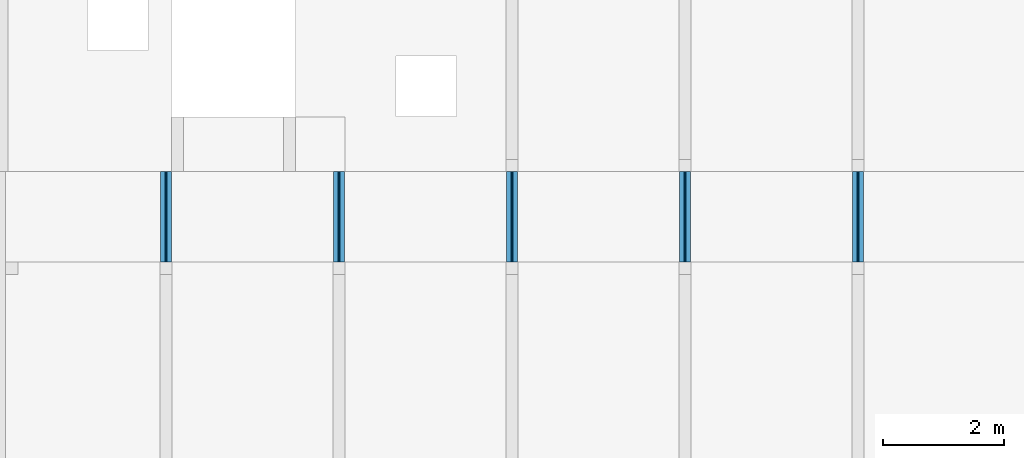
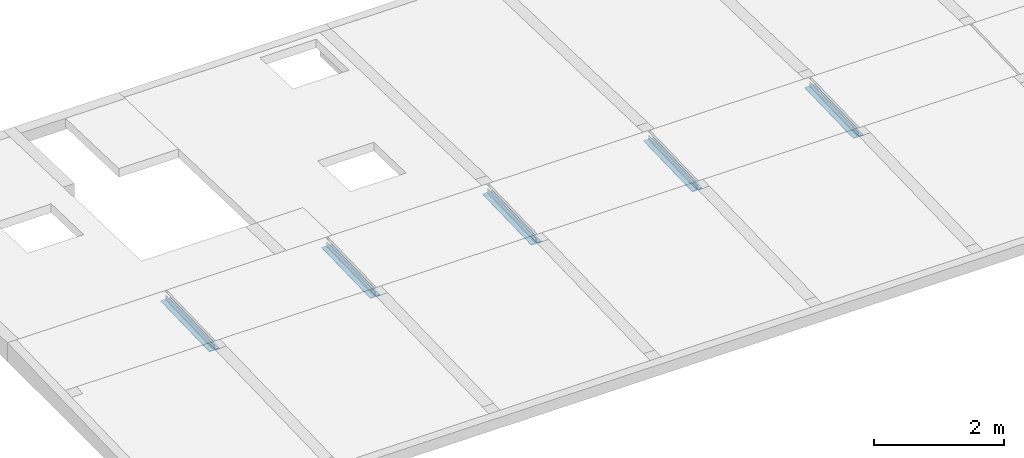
# One storey, part 4 of 5: 5 beams.
"""IFC4 building model written with IfcOpenShell, lengths in metres."""

from ifc_helpers import new_model, entity, si_unit, converted_unit, derived_unit, frame, origin, place, context, subcontext, project, spatial, faceted_brep, material, element, save


model = new_model("IFC4")

# Units and contexts
model_context = context("Model", 3, precision=1e-05, world=origin())
plan_context = context("Plan", 2, precision=1e-05, world=origin())
body_context = subcontext(model_context, "Body", "Model", "MODEL_VIEW")
ifc_project = project(units=[si_unit("LENGTHUNIT", "METRE"), si_unit("AREAUNIT", "SQUARE_METRE"), si_unit("VOLUMEUNIT", "CUBIC_METRE"), si_unit("MASSUNIT", "GRAM", prefix="KILO"), converted_unit("PLANEANGLEUNIT", "DEGREE", entity("IfcPlaneAngleMeasure", 0.0174532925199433), si_unit("PLANEANGLEUNIT", "RADIAN"), dimensions=[0, 0, 0, 0, 0, 0, 0]), derived_unit("THERMALTRANSMITTANCEUNIT", [(si_unit("POWERUNIT", "WATT"), 1), (si_unit("THERMODYNAMICTEMPERATUREUNIT", "KELVIN"), -1), (si_unit("LENGTHUNIT", "METRE"), -2)]), derived_unit("VOLUMETRICFLOWRATEUNIT", [(si_unit("LENGTHUNIT", "METRE"), 3), (converted_unit("TIMEUNIT", "hour", entity("IfcTimeMeasure", 3600.0), si_unit("TIMEUNIT", "SECOND"), dimensions=[0, 0, 1, 0, 0, 0, 0]), -1), (si_unit("LENGTHUNIT", "METRE"), -1)])], contexts=[model_context, plan_context])

# Site, building, storey
site_placement = place(None, origin())
site = spatial("IfcSite", under=ifc_project, at=site_placement, Name="Site", CompositionType="ELEMENT")
building_placement = place(site_placement, origin())
building = spatial("IfcBuilding", under=site, at=building_placement, Name="Admin", CompositionType="ELEMENT")
storey_placement = place(building_placement, frame((0.0, 0.0, 9.64)))
storey = spatial("IfcBuildingStorey", under=building, at=storey_placement, Name="03-Toiture", CompositionType="ELEMENT", Elevation=9.64)

# Beams
ifc_material_1 = material(Name="S235")
beam_1_placement = place(storey_placement, frame((29.5798007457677, 15.699449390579, -0.0230528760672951)))
element("IfcBeam", 1, at=beam_1_placement, inside=storey, material=ifc_material_1, Name="PM 2.02", PredefinedType="NOTDEFINED", context=body_context, shape_type="Brep", body=[
    faceted_brep([(-3.63797880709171e-15, 0.0, 0.0), (0.179999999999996, 0.0, 0.0), (0.180000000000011, 1.49998796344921, 0.043480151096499), (1.09139364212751e-14, 1.49998796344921, 0.043480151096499), (0.0707499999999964, 1.81898940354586e-15, 0.0140058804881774), (-3.63797880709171e-15, 0.0, 0.0140058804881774), (1.09139364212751e-14, 1.49998796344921, 0.0574856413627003), (0.0707500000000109, 1.49998796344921, 0.0574856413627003), (0.0733547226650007, 1.81898940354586e-15, 0.0142338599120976), (0.0733547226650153, 1.49998796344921, 0.0577136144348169), (0.0758803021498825, 1.81898940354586e-15, 0.0149108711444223), (0.075880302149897, 1.49998796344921, 0.0583906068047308), (0.0782499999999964, 1.81898940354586e-15, 0.0160163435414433), (0.0782500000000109, 1.49998796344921, 0.0594960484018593), (0.0803918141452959, 1.81898940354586e-15, 0.0175166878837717), (0.0803918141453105, 1.49998796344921, 0.0609963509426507), (0.0822406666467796, 1.81898940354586e-15, 0.0193663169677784), (0.0822406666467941, 1.49998796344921, 0.0628459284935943), (0.083740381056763, 1.81898940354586e-15, 0.0215090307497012), (0.0837403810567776, 1.49998796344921, 0.064988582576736), (0.084845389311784, 1.81898940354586e-15, 0.0238797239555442), (0.0848453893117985, 1.49998796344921, 0.0673592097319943), (0.0855221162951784, 1.81898940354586e-15, 0.0264063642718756), (0.085522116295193, 1.49998796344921, 0.0698857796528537), (0.0857499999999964, 0.0, 0.029012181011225), (0.0857500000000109, 1.49998796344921, 0.0724915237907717), (0.0942499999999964, 0.0, 0.0900378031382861), (0.0857499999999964, 0.0, 0.0900378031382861), (0.0857500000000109, 1.49998796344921, 0.133515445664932), (0.0942500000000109, 1.49998796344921, 0.133515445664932), (0.0944778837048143, 0.0, 0.0264063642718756), (0.0942499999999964, 0.0, 0.029012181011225), (0.0942500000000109, 1.49998796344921, 0.0724915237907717), (0.0944778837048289, 1.49998796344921, 0.0698857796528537), (0.0951546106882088, 0.0, 0.0238797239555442), (0.0951546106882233, 1.49998796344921, 0.0673592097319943), (0.0962596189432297, 0.0, 0.0215090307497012), (0.0962596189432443, 1.49998796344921, 0.064988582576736), (0.0977593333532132, 0.0, 0.0193663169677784), (0.0977593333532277, 1.49998796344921, 0.0628459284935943), (0.0996081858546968, 0.0, 0.0175166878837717), (0.0996081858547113, 1.49998796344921, 0.0609963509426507), (0.101749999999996, 0.0, 0.0160163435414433), (0.101750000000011, 1.49998796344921, 0.0594960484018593), (0.10411969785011, 0.0, 0.0149108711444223), (0.104119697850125, 1.49998796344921, 0.0583906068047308), (0.106645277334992, 0.0, 0.0142338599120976), (0.106645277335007, 1.49998796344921, 0.0577136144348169), (0.109249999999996, 0.0, 0.0140058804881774), (0.109250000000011, 1.49998796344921, 0.0574856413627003), (0.179999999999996, 0.0, 0.0140058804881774), (0.180000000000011, 1.49998796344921, 0.0574856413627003), (0.180000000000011, 1.5, 0.0434745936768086), (1.09139364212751e-14, 1.5, 0.0434745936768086), (1.09139364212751e-14, 1.5, 0.0574808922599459), (0.0707500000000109, 1.5, 0.0574808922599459), (0.0733547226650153, 1.5, 0.0577088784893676), (0.075880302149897, 1.5, 0.0583859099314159), (0.0782500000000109, 1.5, 0.0594914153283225), (0.0803918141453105, 1.5, 0.0609918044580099), (0.0822406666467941, 1.5, 0.0628414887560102), (0.0837403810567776, 1.5, 0.0649842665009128), (0.0848453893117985, 1.5, 0.0673550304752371), (0.085522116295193, 1.5, 0.0698817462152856), (0.0857500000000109, 1.5, 0.0724876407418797), (0.0857500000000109, 1.5, 0.133515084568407), (0.0942500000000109, 1.5, 0.133515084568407), (0.0942500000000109, 1.5, 0.0724876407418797), (0.0944778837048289, 1.5, 0.0698817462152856), (0.0951546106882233, 1.5, 0.0673550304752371), (0.0962596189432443, 1.5, 0.0649842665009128), (0.0977593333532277, 1.5, 0.0628414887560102), (0.0996081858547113, 1.5, 0.0609918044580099), (0.101750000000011, 1.5, 0.0594914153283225), (0.104119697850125, 1.5, 0.0583859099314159), (0.106645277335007, 1.5, 0.0577088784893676), (0.109250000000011, 1.5, 0.0574808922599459), (0.180000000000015, 1.5, 0.0574808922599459)], [[[0, 1, 2, 3]], [[4, 5, 6, 7]], [[8, 4, 7, 9]], [[10, 8, 9, 11]], [[12, 10, 11, 13]], [[14, 12, 13, 15]], [[16, 14, 15, 17]], [[18, 16, 17, 19]], [[20, 18, 19, 21]], [[22, 20, 21, 23]], [[24, 22, 23, 25]], [[26, 27, 28, 29]], [[30, 31, 32, 33]], [[34, 30, 33, 35]], [[36, 34, 35, 37]], [[38, 36, 37, 39]], [[40, 38, 39, 41]], [[42, 40, 41, 43]], [[44, 42, 43, 45]], [[46, 44, 45, 47]], [[48, 46, 47, 49]], [[50, 48, 49, 51]], [[3, 2, 52, 53]], [[7, 6, 54, 55]], [[9, 7, 55, 56]], [[11, 9, 56, 57]], [[13, 11, 57, 58]], [[15, 13, 58, 59]], [[17, 15, 59, 60]], [[19, 17, 60, 61]], [[21, 19, 61, 62]], [[23, 21, 62, 63]], [[25, 23, 63, 64]], [[27, 24, 25, 64, 65, 28]], [[29, 28, 65, 66]], [[31, 26, 29, 66, 67, 32]], [[33, 32, 67, 68]], [[35, 33, 68, 69]], [[37, 35, 69, 70]], [[39, 37, 70, 71]], [[41, 39, 71, 72]], [[43, 41, 72, 73]], [[45, 43, 73, 74]], [[47, 45, 74, 75]], [[49, 47, 75, 76]], [[51, 49, 76, 77]], [[54, 53, 52, 77, 76, 75, 74, 73, 72, 71, 70, 69, 68, 67, 66, 65, 64, 63, 62, 61, 60, 59, 58, 57, 56, 55]], [[77, 52, 2, 1, 50, 51]], [[50, 1, 0, 5, 4, 8, 10, 12, 14, 16, 18, 20, 22, 24, 27, 26, 31, 30, 34, 36, 38, 40, 42, 44, 46, 48]], [[5, 0, 3, 53, 54, 6]]], orient=[[False], [False], [False], [False], [False], [False], [False], [False], [False], [False], [False], [False], [False], [False], [False], [False], [False], [False], [False], [False], [False], [False], [False], [False], [False], [False], [False], [False], [False], [False], [False], [False], [False], [False], [False], [False], [False], [False], [False], [False], [False], [False], [False], [False], [False], [False], [False], [False], [False], [False]]),
])
ifc_material_2 = material(Name="S235")
beam_2_placement = place(storey_placement, frame((35.2998007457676, 15.699449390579, -0.0229797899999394)))
element("IfcBeam", 2, at=beam_2_placement, inside=storey, material=ifc_material_2, Name="PM 2.04", PredefinedType="NOTDEFINED", context=body_context, shape_type="Brep", body=[
    faceted_brep([(0.0, 0.0, -1.81898940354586e-15), (0.18, 0.0, -1.81898940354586e-15), (0.180000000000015, 1.49998796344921, 0.0434801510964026), (1.45519152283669e-14, 1.49998796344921, 0.0434801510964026), (0.07075, 1.81898940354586e-15, 0.0139999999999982), (0.0, 0.0, 0.0139999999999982), (1.45519152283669e-14, 1.49998796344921, 0.0574801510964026), (0.0707500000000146, 1.49998796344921, 0.0574801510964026), (0.0733547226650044, 1.81898940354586e-15, 0.0142278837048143), (0.0733547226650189, 1.49998796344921, 0.0577080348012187), (0.0758803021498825, 1.81898940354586e-15, 0.0149046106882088), (0.075880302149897, 1.49998796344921, 0.0583847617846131), (0.07825, 1.81898940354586e-15, 0.0160096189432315), (0.0782500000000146, 1.49998796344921, 0.0594897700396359), (0.0803918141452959, 1.81898940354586e-15, 0.0175093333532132), (0.0803918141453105, 1.49998796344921, 0.0609894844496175), (0.0822406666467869, 1.81898940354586e-15, 0.0193581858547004), (0.0822406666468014, 1.49998796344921, 0.0628383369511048), (0.083740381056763, 1.81898940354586e-15, 0.0214999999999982), (0.0837403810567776, 1.49998796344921, 0.0649801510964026), (0.0848453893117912, 1.81898940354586e-15, 0.0238696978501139), (0.0848453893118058, 1.49998796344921, 0.0673498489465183), (0.0855221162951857, 1.81898940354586e-15, 0.0263952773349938), (0.0855221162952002, 1.49998796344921, 0.0698754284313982), (0.08575, 0.0, 0.0289999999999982), (0.0857500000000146, 1.49998796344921, 0.0724801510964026), (0.09425, 0.0, 0.0899999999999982), (0.08575, 0.0, 0.0899999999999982), (0.0857500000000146, 1.49998796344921, 0.133480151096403), (0.0942500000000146, 1.49998796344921, 0.133480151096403), (0.0944778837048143, 0.0, 0.0263952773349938), (0.09425, 0.0, 0.0289999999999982), (0.0942500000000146, 1.49998796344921, 0.0724801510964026), (0.0944778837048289, 1.49998796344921, 0.0698754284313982), (0.0951546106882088, 0.0, 0.0238696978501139), (0.0951546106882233, 1.49998796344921, 0.0673498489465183), (0.096259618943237, 0.0, 0.0214999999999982), (0.0962596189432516, 1.49998796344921, 0.0649801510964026), (0.0977593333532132, 0.0, 0.0193581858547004), (0.0977593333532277, 1.49998796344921, 0.0628383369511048), (0.0996081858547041, 0.0, 0.0175093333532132), (0.0996081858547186, 1.49998796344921, 0.0609894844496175), (0.10175, 0.0, 0.0160096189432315), (0.101750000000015, 1.49998796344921, 0.0594897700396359), (0.104119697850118, 0.0, 0.0149046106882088), (0.104119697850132, 1.49998796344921, 0.0583847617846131), (0.106645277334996, 0.0, 0.0142278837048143), (0.10664527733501, 1.49998796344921, 0.0577080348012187), (0.10925, 0.0, 0.0139999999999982), (0.109250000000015, 1.49998796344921, 0.0574801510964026), (0.18, 0.0, 0.0139999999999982), (0.180000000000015, 1.49998796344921, 0.0574801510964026), (0.180000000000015, 1.5, 0.0434797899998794), (1.45519152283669e-14, 1.5, 0.0434797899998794), (1.45519152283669e-14, 1.5, 0.0574797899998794), (0.0707500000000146, 1.5, 0.0574797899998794), (0.0733547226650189, 1.5, 0.0577076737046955), (0.075880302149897, 1.5, 0.05838440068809), (0.0782500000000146, 1.5, 0.0594894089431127), (0.0803918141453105, 1.5, 0.0609891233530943), (0.0822406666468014, 1.5, 0.0628379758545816), (0.0837403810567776, 1.5, 0.0649797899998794), (0.0848453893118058, 1.5, 0.0673494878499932), (0.0855221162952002, 1.5, 0.069875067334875), (0.0857500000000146, 1.5, 0.0724797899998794), (0.0857500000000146, 1.5, 0.133479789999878), (0.0942500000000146, 1.5, 0.133479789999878), (0.0942500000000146, 1.5, 0.0724797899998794), (0.0944778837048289, 1.5, 0.069875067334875), (0.0951546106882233, 1.5, 0.0673494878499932), (0.0962596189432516, 1.5, 0.0649797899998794), (0.0977593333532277, 1.5, 0.0628379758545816), (0.0996081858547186, 1.5, 0.0609891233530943), (0.101750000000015, 1.5, 0.0594894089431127), (0.104119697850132, 1.5, 0.05838440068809), (0.10664527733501, 1.5, 0.0577076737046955), (0.109250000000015, 1.5, 0.0574797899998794), (0.180000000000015, 1.5, 0.0574797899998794)], [[[0, 1, 2, 3]], [[4, 5, 6, 7]], [[8, 4, 7, 9]], [[10, 8, 9, 11]], [[12, 10, 11, 13]], [[14, 12, 13, 15]], [[16, 14, 15, 17]], [[18, 16, 17, 19]], [[20, 18, 19, 21]], [[22, 20, 21, 23]], [[24, 22, 23, 25]], [[26, 27, 28, 29]], [[30, 31, 32, 33]], [[34, 30, 33, 35]], [[36, 34, 35, 37]], [[38, 36, 37, 39]], [[40, 38, 39, 41]], [[42, 40, 41, 43]], [[44, 42, 43, 45]], [[46, 44, 45, 47]], [[48, 46, 47, 49]], [[50, 48, 49, 51]], [[3, 2, 52, 53]], [[7, 6, 54, 55]], [[9, 7, 55, 56]], [[11, 9, 56, 57]], [[13, 11, 57, 58]], [[15, 13, 58, 59]], [[17, 15, 59, 60]], [[19, 17, 60, 61]], [[21, 19, 61, 62]], [[23, 21, 62, 63]], [[25, 23, 63, 64]], [[27, 24, 25, 64, 65, 28]], [[29, 28, 65, 66]], [[31, 26, 29, 66, 67, 32]], [[33, 32, 67, 68]], [[35, 33, 68, 69]], [[37, 35, 69, 70]], [[39, 37, 70, 71]], [[41, 39, 71, 72]], [[43, 41, 72, 73]], [[45, 43, 73, 74]], [[47, 45, 74, 75]], [[49, 47, 75, 76]], [[51, 49, 76, 77]], [[54, 53, 52, 77, 76, 75, 74, 73, 72, 71, 70, 69, 68, 67, 66, 65, 64, 63, 62, 61, 60, 59, 58, 57, 56, 55]], [[77, 52, 2, 1, 50, 51]], [[50, 1, 0, 5, 4, 8, 10, 12, 14, 16, 18, 20, 22, 24, 27, 26, 31, 30, 34, 36, 38, 40, 42, 44, 46, 48]], [[5, 0, 3, 53, 54, 6]]], orient=[[False], [False], [False], [False], [False], [False], [False], [False], [False], [False], [False], [False], [False], [False], [False], [False], [False], [False], [False], [False], [False], [False], [False], [False], [False], [False], [False], [False], [False], [False], [False], [False], [False], [False], [False], [False], [False], [False], [False], [False], [False], [False], [False], [False], [False], [False], [False], [False], [False], [False]]),
])
ifc_material_3 = material(Name="S235")
beam_3_placement = place(storey_placement, frame((38.1598007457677, 15.699449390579, -0.0229797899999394)))
element("IfcBeam", 3, at=beam_3_placement, inside=storey, material=ifc_material_3, Name="PM 2.05", PredefinedType="NOTDEFINED", context=body_context, shape_type="Brep", body=[
    faceted_brep([(0.0, 0.0, -1.81898940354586e-15), (0.18, 0.0, -1.81898940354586e-15), (0.180000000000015, 1.49998796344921, 0.0434801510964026), (1.45519152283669e-14, 1.49998796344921, 0.0434801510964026), (0.07075, 1.81898940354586e-15, 0.0139999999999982), (0.0, 0.0, 0.0139999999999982), (1.45519152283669e-14, 1.49998796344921, 0.0574801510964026), (0.0707500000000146, 1.49998796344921, 0.0574801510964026), (0.0733547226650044, 1.81898940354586e-15, 0.0142278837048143), (0.0733547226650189, 1.49998796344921, 0.0577080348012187), (0.0758803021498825, 1.81898940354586e-15, 0.0149046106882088), (0.075880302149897, 1.49998796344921, 0.0583847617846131), (0.07825, 1.81898940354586e-15, 0.0160096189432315), (0.0782500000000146, 1.49998796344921, 0.0594897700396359), (0.0803918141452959, 1.81898940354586e-15, 0.0175093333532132), (0.0803918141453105, 1.49998796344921, 0.0609894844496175), (0.0822406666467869, 1.81898940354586e-15, 0.0193581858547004), (0.0822406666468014, 1.49998796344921, 0.0628383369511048), (0.083740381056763, 1.81898940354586e-15, 0.0214999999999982), (0.0837403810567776, 1.49998796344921, 0.0649801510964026), (0.0848453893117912, 1.81898940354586e-15, 0.0238696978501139), (0.0848453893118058, 1.49998796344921, 0.0673498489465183), (0.0855221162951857, 1.81898940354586e-15, 0.0263952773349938), (0.0855221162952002, 1.49998796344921, 0.0698754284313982), (0.08575, 0.0, 0.0289999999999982), (0.0857500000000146, 1.49998796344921, 0.0724801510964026), (0.09425, 0.0, 0.0899999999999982), (0.08575, 0.0, 0.0899999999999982), (0.0857500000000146, 1.49998796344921, 0.133480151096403), (0.0942500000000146, 1.49998796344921, 0.133480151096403), (0.0944778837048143, 0.0, 0.0263952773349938), (0.09425, 0.0, 0.0289999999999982), (0.0942500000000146, 1.49998796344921, 0.0724801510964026), (0.0944778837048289, 1.49998796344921, 0.0698754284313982), (0.0951546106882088, 0.0, 0.0238696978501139), (0.0951546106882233, 1.49998796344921, 0.0673498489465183), (0.096259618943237, 0.0, 0.0214999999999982), (0.0962596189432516, 1.49998796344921, 0.0649801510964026), (0.0977593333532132, 0.0, 0.0193581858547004), (0.0977593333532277, 1.49998796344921, 0.0628383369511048), (0.0996081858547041, 0.0, 0.0175093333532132), (0.0996081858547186, 1.49998796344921, 0.0609894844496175), (0.10175, 0.0, 0.0160096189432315), (0.101750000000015, 1.49998796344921, 0.0594897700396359), (0.104119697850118, 0.0, 0.0149046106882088), (0.104119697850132, 1.49998796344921, 0.0583847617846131), (0.106645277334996, 0.0, 0.0142278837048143), (0.10664527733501, 1.49998796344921, 0.0577080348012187), (0.10925, 0.0, 0.0139999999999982), (0.109250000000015, 1.49998796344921, 0.0574801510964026), (0.18, 0.0, 0.0139999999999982), (0.180000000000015, 1.49998796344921, 0.0574801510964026), (0.180000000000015, 1.5, 0.0434797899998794), (1.45519152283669e-14, 1.5, 0.0434797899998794), (1.45519152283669e-14, 1.5, 0.0574797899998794), (0.0707500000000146, 1.5, 0.0574797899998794), (0.0733547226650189, 1.5, 0.0577076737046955), (0.075880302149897, 1.5, 0.05838440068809), (0.0782500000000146, 1.5, 0.0594894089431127), (0.0803918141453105, 1.5, 0.0609891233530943), (0.0822406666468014, 1.5, 0.0628379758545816), (0.0837403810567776, 1.5, 0.0649797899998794), (0.0848453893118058, 1.5, 0.0673494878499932), (0.0855221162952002, 1.5, 0.069875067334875), (0.0857500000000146, 1.5, 0.0724797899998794), (0.0857500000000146, 1.5, 0.133479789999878), (0.0942500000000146, 1.5, 0.133479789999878), (0.0942500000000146, 1.5, 0.0724797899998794), (0.0944778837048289, 1.5, 0.069875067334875), (0.0951546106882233, 1.5, 0.0673494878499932), (0.0962596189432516, 1.5, 0.0649797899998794), (0.0977593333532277, 1.5, 0.0628379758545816), (0.0996081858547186, 1.5, 0.0609891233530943), (0.101750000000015, 1.5, 0.0594894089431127), (0.104119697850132, 1.5, 0.05838440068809), (0.10664527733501, 1.5, 0.0577076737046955), (0.109250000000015, 1.5, 0.0574797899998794), (0.180000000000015, 1.5, 0.0574797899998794)], [[[0, 1, 2, 3]], [[4, 5, 6, 7]], [[8, 4, 7, 9]], [[10, 8, 9, 11]], [[12, 10, 11, 13]], [[14, 12, 13, 15]], [[16, 14, 15, 17]], [[18, 16, 17, 19]], [[20, 18, 19, 21]], [[22, 20, 21, 23]], [[24, 22, 23, 25]], [[26, 27, 28, 29]], [[30, 31, 32, 33]], [[34, 30, 33, 35]], [[36, 34, 35, 37]], [[38, 36, 37, 39]], [[40, 38, 39, 41]], [[42, 40, 41, 43]], [[44, 42, 43, 45]], [[46, 44, 45, 47]], [[48, 46, 47, 49]], [[50, 48, 49, 51]], [[3, 2, 52, 53]], [[7, 6, 54, 55]], [[9, 7, 55, 56]], [[11, 9, 56, 57]], [[13, 11, 57, 58]], [[15, 13, 58, 59]], [[17, 15, 59, 60]], [[19, 17, 60, 61]], [[21, 19, 61, 62]], [[23, 21, 62, 63]], [[25, 23, 63, 64]], [[27, 24, 25, 64, 65, 28]], [[29, 28, 65, 66]], [[31, 26, 29, 66, 67, 32]], [[33, 32, 67, 68]], [[35, 33, 68, 69]], [[37, 35, 69, 70]], [[39, 37, 70, 71]], [[41, 39, 71, 72]], [[43, 41, 72, 73]], [[45, 43, 73, 74]], [[47, 45, 74, 75]], [[49, 47, 75, 76]], [[51, 49, 76, 77]], [[54, 53, 52, 77, 76, 75, 74, 73, 72, 71, 70, 69, 68, 67, 66, 65, 64, 63, 62, 61, 60, 59, 58, 57, 56, 55]], [[77, 52, 2, 1, 50, 51]], [[50, 1, 0, 5, 4, 8, 10, 12, 14, 16, 18, 20, 22, 24, 27, 26, 31, 30, 34, 36, 38, 40, 42, 44, 46, 48]], [[5, 0, 3, 53, 54, 6]]], orient=[[False], [False], [False], [False], [False], [False], [False], [False], [False], [False], [False], [False], [False], [False], [False], [False], [False], [False], [False], [False], [False], [False], [False], [False], [False], [False], [False], [False], [False], [False], [False], [False], [False], [False], [False], [False], [False], [False], [False], [False], [False], [False], [False], [False], [False], [False], [False], [False], [False], [False]]),
])
ifc_material_4 = material(Name="S235")
beam_4_placement = place(storey_placement, frame((26.7198012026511, 15.699449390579, -0.0230528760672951)))
element("IfcBeam", 4, at=beam_4_placement, inside=storey, material=ifc_material_4, Name="PM 2.01", PredefinedType="NOTDEFINED", context=body_context, shape_type="Brep", body=[
    faceted_brep([(0.0, 0.0, 0.0), (0.18, 0.0, 0.0), (0.180000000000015, 1.49998796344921, 0.043480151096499), (1.45519152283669e-14, 1.49998796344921, 0.043480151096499), (0.07075, 1.81898940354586e-15, 0.0140058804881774), (0.0, 0.0, 0.0140058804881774), (1.45519152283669e-14, 1.49998796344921, 0.0574856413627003), (0.0707500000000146, 1.49998796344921, 0.0574856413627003), (0.0733547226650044, 1.81898940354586e-15, 0.0142338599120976), (0.0733547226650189, 1.49998796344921, 0.0577136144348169), (0.0758803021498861, 1.81898940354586e-15, 0.0149108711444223), (0.0758803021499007, 1.49998796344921, 0.0583906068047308), (0.07825, 1.81898940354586e-15, 0.0160163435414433), (0.0782500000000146, 1.49998796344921, 0.0594960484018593), (0.0803918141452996, 1.81898940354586e-15, 0.0175166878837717), (0.0803918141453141, 1.49998796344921, 0.0609963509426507), (0.0822406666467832, 1.81898940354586e-15, 0.0193663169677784), (0.0822406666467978, 1.49998796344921, 0.0628459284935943), (0.0837403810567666, 1.81898940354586e-15, 0.0215090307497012), (0.0837403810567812, 1.49998796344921, 0.064988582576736), (0.0848453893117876, 1.81898940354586e-15, 0.0238797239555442), (0.0848453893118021, 1.49998796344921, 0.0673592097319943), (0.0855221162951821, 1.81898940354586e-15, 0.0264063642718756), (0.0855221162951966, 1.49998796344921, 0.0698857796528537), (0.08575, 0.0, 0.029012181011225), (0.0857500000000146, 1.49998796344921, 0.0724915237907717), (0.09425, 0.0, 0.0900378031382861), (0.08575, 0.0, 0.0900378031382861), (0.0857500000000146, 1.49998796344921, 0.133515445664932), (0.0942500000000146, 1.49998796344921, 0.133515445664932), (0.0944778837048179, 0.0, 0.0264063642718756), (0.09425, 0.0, 0.029012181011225), (0.0942500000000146, 1.49998796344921, 0.0724915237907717), (0.0944778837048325, 1.49998796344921, 0.0698857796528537), (0.0951546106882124, 0.0, 0.0238797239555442), (0.095154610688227, 1.49998796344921, 0.0673592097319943), (0.0962596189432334, 0.0, 0.0215090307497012), (0.0962596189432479, 1.49998796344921, 0.064988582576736), (0.0977593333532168, 0.0, 0.0193663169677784), (0.0977593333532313, 1.49998796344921, 0.0628459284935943), (0.0996081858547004, 0.0, 0.0175166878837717), (0.099608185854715, 1.49998796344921, 0.0609963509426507), (0.10175, 0.0, 0.0160163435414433), (0.101750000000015, 1.49998796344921, 0.0594960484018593), (0.104119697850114, 0.0, 0.0149108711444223), (0.104119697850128, 1.49998796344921, 0.0583906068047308), (0.106645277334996, 0.0, 0.0142338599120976), (0.10664527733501, 1.49998796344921, 0.0577136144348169), (0.10925, 0.0, 0.0140058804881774), (0.109250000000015, 1.49998796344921, 0.0574856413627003), (0.18, 0.0, 0.0140058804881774), (0.180000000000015, 1.49998796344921, 0.0574856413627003), (0.180000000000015, 1.5, 0.0434745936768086), (1.81898940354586e-14, 1.5, 0.0434745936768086), (1.45519152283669e-14, 1.5, 0.0574808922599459), (0.0707500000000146, 1.5, 0.0574808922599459), (0.0733547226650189, 1.5, 0.0577088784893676), (0.0758803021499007, 1.5, 0.0583859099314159), (0.0782500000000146, 1.5, 0.0594914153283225), (0.0803918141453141, 1.5, 0.0609918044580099), (0.0822406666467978, 1.5, 0.0628414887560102), (0.0837403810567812, 1.5, 0.0649842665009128), (0.0848453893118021, 1.5, 0.0673550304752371), (0.0855221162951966, 1.5, 0.0698817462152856), (0.0857500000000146, 1.5, 0.0724876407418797), (0.0857500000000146, 1.5, 0.133515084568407), (0.0942500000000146, 1.5, 0.133515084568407), (0.0942500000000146, 1.5, 0.0724876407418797), (0.0944778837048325, 1.5, 0.0698817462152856), (0.095154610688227, 1.5, 0.0673550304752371), (0.0962596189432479, 1.5, 0.0649842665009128), (0.0977593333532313, 1.5, 0.0628414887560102), (0.099608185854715, 1.5, 0.0609918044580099), (0.101750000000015, 1.5, 0.0594914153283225), (0.104119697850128, 1.5, 0.0583859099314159), (0.10664527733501, 1.5, 0.0577088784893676), (0.109250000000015, 1.5, 0.0574808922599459), (0.180000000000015, 1.5, 0.0574808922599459)], [[[0, 1, 2, 3]], [[4, 5, 6, 7]], [[8, 4, 7, 9]], [[10, 8, 9, 11]], [[12, 10, 11, 13]], [[14, 12, 13, 15]], [[16, 14, 15, 17]], [[18, 16, 17, 19]], [[20, 18, 19, 21]], [[22, 20, 21, 23]], [[24, 22, 23, 25]], [[26, 27, 28, 29]], [[30, 31, 32, 33]], [[34, 30, 33, 35]], [[36, 34, 35, 37]], [[38, 36, 37, 39]], [[40, 38, 39, 41]], [[42, 40, 41, 43]], [[44, 42, 43, 45]], [[46, 44, 45, 47]], [[48, 46, 47, 49]], [[50, 48, 49, 51]], [[3, 2, 52, 53]], [[7, 6, 54, 55]], [[9, 7, 55, 56]], [[11, 9, 56, 57]], [[13, 11, 57, 58]], [[15, 13, 58, 59]], [[17, 15, 59, 60]], [[19, 17, 60, 61]], [[21, 19, 61, 62]], [[23, 21, 62, 63]], [[25, 23, 63, 64]], [[27, 24, 25, 64, 65, 28]], [[29, 28, 65, 66]], [[31, 26, 29, 66, 67, 32]], [[33, 32, 67, 68]], [[35, 33, 68, 69]], [[37, 35, 69, 70]], [[39, 37, 70, 71]], [[41, 39, 71, 72]], [[43, 41, 72, 73]], [[45, 43, 73, 74]], [[47, 45, 74, 75]], [[49, 47, 75, 76]], [[51, 49, 76, 77]], [[54, 53, 52, 77, 76, 75, 74, 73, 72, 71, 70, 69, 68, 67, 66, 65, 64, 63, 62, 61, 60, 59, 58, 57, 56, 55]], [[77, 52, 2, 1, 50, 51]], [[50, 1, 0, 5, 4, 8, 10, 12, 14, 16, 18, 20, 22, 24, 27, 26, 31, 30, 34, 36, 38, 40, 42, 44, 46, 48]], [[5, 0, 3, 53, 54, 6]]], orient=[[False], [False], [False], [False], [False], [False], [False], [False], [False], [False], [False], [False], [False], [False], [False], [False], [False], [False], [False], [False], [False], [False], [False], [False], [False], [False], [False], [False], [False], [False], [False], [False], [False], [False], [False], [False], [False], [False], [False], [False], [False], [False], [False], [False], [False], [False], [False], [False], [False], [False]]),
])
ifc_material_5 = material(Name="S235")
beam_5_placement = place(storey_placement, frame((32.4398007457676, 15.699449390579, -0.0229797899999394)))
element("IfcBeam", 5, at=beam_5_placement, inside=storey, material=ifc_material_5, Name="PM 2.03", PredefinedType="NOTDEFINED", context=body_context, shape_type="Brep", body=[
    faceted_brep([(0.0, 0.0, -1.81898940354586e-15), (0.18, 0.0, -1.81898940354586e-15), (0.180000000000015, 1.49998796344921, 0.0434801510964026), (1.09139364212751e-14, 1.49998796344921, 0.0434801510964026), (0.07075, 0.0, 0.0139999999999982), (0.0, 0.0, 0.0139999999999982), (1.09139364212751e-14, 1.49998796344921, 0.0574801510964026), (0.0707500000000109, 1.49998796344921, 0.0574801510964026), (0.0733547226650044, 0.0, 0.0142278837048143), (0.0733547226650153, 1.49998796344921, 0.0577080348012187), (0.0758803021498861, 0.0, 0.0149046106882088), (0.075880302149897, 1.49998796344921, 0.0583847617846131), (0.07825, 0.0, 0.0160096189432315), (0.0782500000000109, 1.49998796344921, 0.0594897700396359), (0.0803918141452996, 0.0, 0.0175093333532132), (0.0803918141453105, 1.49998796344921, 0.0609894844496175), (0.0822406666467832, 0.0, 0.0193581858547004), (0.0822406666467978, 1.49998796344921, 0.0628383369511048), (0.0837403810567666, 0.0, 0.0214999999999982), (0.0837403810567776, 1.49998796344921, 0.0649801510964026), (0.0848453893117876, 0.0, 0.0238696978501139), (0.0848453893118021, 1.49998796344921, 0.0673498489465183), (0.0855221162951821, 0.0, 0.0263952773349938), (0.0855221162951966, 1.49998796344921, 0.0698754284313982), (0.08575, 0.0, 0.0289999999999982), (0.0857500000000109, 1.49998796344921, 0.0724801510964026), (0.09425, 0.0, 0.0899999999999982), (0.08575, 0.0, 0.0899999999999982), (0.0857500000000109, 1.49998796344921, 0.133480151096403), (0.0942500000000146, 1.49998796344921, 0.133480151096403), (0.0944778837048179, 0.0, 0.0263952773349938), (0.09425, 0.0, 0.0289999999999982), (0.0942500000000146, 1.49998796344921, 0.0724801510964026), (0.0944778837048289, 1.49998796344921, 0.0698754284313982), (0.0951546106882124, 0.0, 0.0238696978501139), (0.0951546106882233, 1.49998796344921, 0.0673498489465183), (0.0962596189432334, 0.0, 0.0214999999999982), (0.0962596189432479, 1.49998796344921, 0.0649801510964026), (0.0977593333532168, 0.0, 0.0193581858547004), (0.0977593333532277, 1.49998796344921, 0.0628383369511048), (0.0996081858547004, 0.0, 0.0175093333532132), (0.099608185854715, 1.49998796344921, 0.0609894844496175), (0.10175, 0.0, 0.0160096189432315), (0.101750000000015, 1.49998796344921, 0.0594897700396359), (0.104119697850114, 0.0, 0.0149046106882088), (0.104119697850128, 1.49998796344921, 0.0583847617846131), (0.106645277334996, 0.0, 0.0142278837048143), (0.10664527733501, 1.49998796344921, 0.0577080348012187), (0.10925, 0.0, 0.0139999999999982), (0.109250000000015, 1.49998796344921, 0.0574801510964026), (0.18, 0.0, 0.0139999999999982), (0.180000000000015, 1.49998796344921, 0.0574801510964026), (0.180000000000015, 1.5, 0.0434797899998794), (1.09139364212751e-14, 1.5, 0.0434797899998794), (1.45519152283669e-14, 1.5, 0.0574797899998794), (0.0707500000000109, 1.5, 0.0574797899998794), (0.0733547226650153, 1.5, 0.0577076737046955), (0.075880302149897, 1.5, 0.05838440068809), (0.0782500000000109, 1.5, 0.0594894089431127), (0.0803918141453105, 1.5, 0.0609891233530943), (0.0822406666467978, 1.5, 0.0628379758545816), (0.0837403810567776, 1.5, 0.0649797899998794), (0.0848453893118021, 1.5, 0.0673494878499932), (0.0855221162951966, 1.5, 0.069875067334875), (0.0857500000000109, 1.5, 0.0724797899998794), (0.0857500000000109, 1.5, 0.133479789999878), (0.0942500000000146, 1.5, 0.133479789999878), (0.0942500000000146, 1.5, 0.0724797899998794), (0.0944778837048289, 1.5, 0.069875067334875), (0.0951546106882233, 1.5, 0.0673494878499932), (0.0962596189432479, 1.5, 0.0649797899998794), (0.0977593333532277, 1.5, 0.0628379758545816), (0.099608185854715, 1.5, 0.0609891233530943), (0.101750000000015, 1.5, 0.0594894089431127), (0.104119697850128, 1.5, 0.05838440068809), (0.10664527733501, 1.5, 0.0577076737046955), (0.109250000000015, 1.5, 0.0574797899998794), (0.180000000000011, 1.5, 0.0574797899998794)], [[[0, 1, 2, 3]], [[4, 5, 6, 7]], [[8, 4, 7, 9]], [[10, 8, 9, 11]], [[12, 10, 11, 13]], [[14, 12, 13, 15]], [[16, 14, 15, 17]], [[18, 16, 17, 19]], [[20, 18, 19, 21]], [[22, 20, 21, 23]], [[24, 22, 23, 25]], [[26, 27, 28, 29]], [[30, 31, 32, 33]], [[34, 30, 33, 35]], [[36, 34, 35, 37]], [[38, 36, 37, 39]], [[40, 38, 39, 41]], [[42, 40, 41, 43]], [[44, 42, 43, 45]], [[46, 44, 45, 47]], [[48, 46, 47, 49]], [[50, 48, 49, 51]], [[3, 2, 52, 53]], [[7, 6, 54, 55]], [[9, 7, 55, 56]], [[11, 9, 56, 57]], [[13, 11, 57, 58]], [[15, 13, 58, 59]], [[17, 15, 59, 60]], [[19, 17, 60, 61]], [[21, 19, 61, 62]], [[23, 21, 62, 63]], [[25, 23, 63, 64]], [[27, 24, 25, 64, 65, 28]], [[29, 28, 65, 66]], [[31, 26, 29, 66, 67, 32]], [[33, 32, 67, 68]], [[35, 33, 68, 69]], [[37, 35, 69, 70]], [[39, 37, 70, 71]], [[41, 39, 71, 72]], [[43, 41, 72, 73]], [[45, 43, 73, 74]], [[47, 45, 74, 75]], [[49, 47, 75, 76]], [[51, 49, 76, 77]], [[54, 53, 52, 77, 76, 75, 74, 73, 72, 71, 70, 69, 68, 67, 66, 65, 64, 63, 62, 61, 60, 59, 58, 57, 56, 55]], [[77, 52, 2, 1, 50, 51]], [[50, 1, 0, 5, 4, 8, 10, 12, 14, 16, 18, 20, 22, 24, 27, 26, 31, 30, 34, 36, 38, 40, 42, 44, 46, 48]], [[5, 0, 3, 53, 54, 6]]], orient=[[False], [False], [False], [False], [False], [False], [False], [False], [False], [False], [False], [False], [False], [False], [False], [False], [False], [False], [False], [False], [False], [False], [False], [False], [False], [False], [False], [False], [False], [False], [False], [False], [False], [False], [False], [False], [False], [False], [False], [False], [False], [False], [False], [False], [False], [False], [False], [False], [False], [False]]),
])

save(model, "model.ifc")
